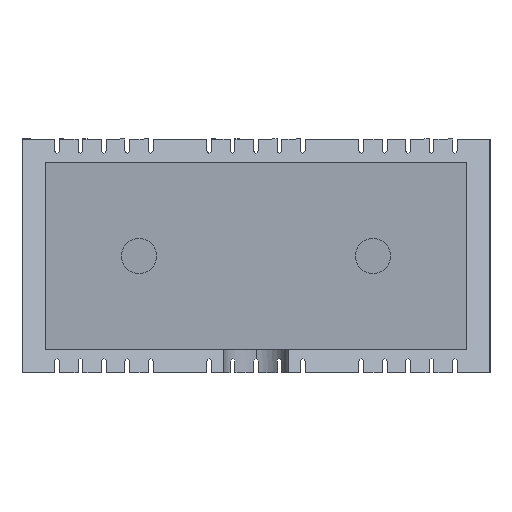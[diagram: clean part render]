
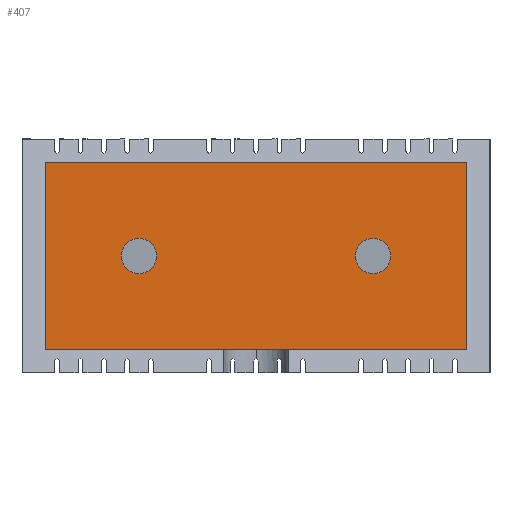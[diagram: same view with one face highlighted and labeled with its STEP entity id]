
A CAD part, left-side view. The second image highlights one B-rep face of the part: STEP entity #407.
In plain terms, the highlighted planar face has unit normal (-1, 0, 0).
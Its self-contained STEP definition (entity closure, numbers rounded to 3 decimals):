
#8 = ORIENTED_EDGE ( 'NONE', *, *, #635, .F. ) ;
#40 = VERTEX_POINT ( 'NONE', #5330 ) ;
#213 = ORIENTED_EDGE ( 'NONE', *, *, #230, .F. ) ;
#222 = FACE_BOUND ( 'NONE', #4904, .T. ) ;
#230 = EDGE_CURVE ( 'NONE', #3330, #3927, #3127, .T. ) ;
#231 = VECTOR ( 'NONE', #5308, 1000. ) ;
#407 = ADVANCED_FACE ( 'NONE', ( #1099, #222, #5340 ), #3620, .F. ) ;
#510 = CIRCLE ( 'NONE', #820, 1.5 ) ;
#635 = EDGE_CURVE ( 'NONE', #3927, #3330, #4822, .T. ) ;
#656 = LINE ( 'NONE', #5252, #231 ) ;
#767 = EDGE_LOOP ( 'NONE', ( #4643, #4102 ) ) ;
#820 = AXIS2_PLACEMENT_3D ( 'NONE', #4565, #2077, #2930 ) ;
#875 = CARTESIAN_POINT ( 'NONE',  ( -52., -10., -1.5 ) ) ;
#922 = VERTEX_POINT ( 'NONE', #4734 ) ;
#1073 = VERTEX_POINT ( 'NONE', #3118 ) ;
#1099 = FACE_OUTER_BOUND ( 'NONE', #2821, .T. ) ;
#1481 = CARTESIAN_POINT ( 'NONE',  ( -52., 18., -8. ) ) ;
#1503 = AXIS2_PLACEMENT_3D ( 'NONE', #1667, #4177, #2046 ) ;
#1520 = EDGE_CURVE ( 'NONE', #2962, #40, #3886, .T. ) ;
#1528 = DIRECTION ( 'NONE',  ( 1., 0., 0. ) ) ;
#1547 = EDGE_CURVE ( 'NONE', #922, #1073, #5420, .T. ) ;
#1556 = EDGE_CURVE ( 'NONE', #40, #2962, #510, .T. ) ;
#1570 = AXIS2_PLACEMENT_3D ( 'NONE', #2674, #1952, #3188 ) ;
#1638 = DIRECTION ( 'NONE',  ( 0., 0., -1. ) ) ;
#1667 = CARTESIAN_POINT ( 'NONE',  ( -52., -10., 0. ) ) ;
#1685 = ORIENTED_EDGE ( 'NONE', *, *, #2200, .T. ) ;
#1687 = LINE ( 'NONE', #2155, #4960 ) ;
#1698 = VECTOR ( 'NONE', #1873, 1000. ) ;
#1858 = VERTEX_POINT ( 'NONE', #5243 ) ;
#1873 = DIRECTION ( 'NONE',  ( 0., -1., 0. ) ) ;
#1916 = CARTESIAN_POINT ( 'NONE',  ( -52., 0., 0. ) ) ;
#1952 = DIRECTION ( 'NONE',  ( -1., 0., 0. ) ) ;
#2046 = DIRECTION ( 'NONE',  ( 0., 0., -1. ) ) ;
#2077 = DIRECTION ( 'NONE',  ( -1., 0., 0. ) ) ;
#2155 = CARTESIAN_POINT ( 'NONE',  ( -52., -18., 0. ) ) ;
#2200 = EDGE_CURVE ( 'NONE', #1858, #922, #656, .T. ) ;
#2436 = AXIS2_PLACEMENT_3D ( 'NONE', #3075, #4770, #4453 ) ;
#2650 = VECTOR ( 'NONE', #1638, 1000. ) ;
#2674 = CARTESIAN_POINT ( 'NONE',  ( -52., 10., 0. ) ) ;
#2821 = EDGE_LOOP ( 'NONE', ( #3220, #5019, #1685, #3400 ) ) ;
#2881 = CARTESIAN_POINT ( 'NONE',  ( -52., 10., 1.5 ) ) ;
#2930 = DIRECTION ( 'NONE',  ( 0., 0., -1. ) ) ;
#2952 = DIRECTION ( 'NONE',  ( 0., 0., -1. ) ) ;
#2962 = VERTEX_POINT ( 'NONE', #875 ) ;
#3067 = AXIS2_PLACEMENT_3D ( 'NONE', #1916, #1528, #5313 ) ;
#3075 = CARTESIAN_POINT ( 'NONE',  ( -52., 10., 0. ) ) ;
#3118 = CARTESIAN_POINT ( 'NONE',  ( -52., 18., -8. ) ) ;
#3127 = CIRCLE ( 'NONE', #1570, 1.5 ) ;
#3188 = DIRECTION ( 'NONE',  ( 0., 0., -1. ) ) ;
#3220 = ORIENTED_EDGE ( 'NONE', *, *, #3922, .T. ) ;
#3330 = VERTEX_POINT ( 'NONE', #2881 ) ;
#3400 = ORIENTED_EDGE ( 'NONE', *, *, #1547, .T. ) ;
#3620 = PLANE ( 'NONE',  #3067 ) ;
#3712 = VERTEX_POINT ( 'NONE', #3864 ) ;
#3864 = CARTESIAN_POINT ( 'NONE',  ( -52., -18., -8. ) ) ;
#3886 = CIRCLE ( 'NONE', #1503, 1.5 ) ;
#3922 = EDGE_CURVE ( 'NONE', #1073, #3712, #5264, .T. ) ;
#3927 = VERTEX_POINT ( 'NONE', #4022 ) ;
#4022 = CARTESIAN_POINT ( 'NONE',  ( -52., 10., -1.5 ) ) ;
#4102 = ORIENTED_EDGE ( 'NONE', *, *, #1556, .F. ) ;
#4140 = EDGE_CURVE ( 'NONE', #1858, #3712, #1687, .T. ) ;
#4177 = DIRECTION ( 'NONE',  ( -1., 0., 0. ) ) ;
#4453 = DIRECTION ( 'NONE',  ( 0., 0., -1. ) ) ;
#4565 = CARTESIAN_POINT ( 'NONE',  ( -52., -10., 0. ) ) ;
#4643 = ORIENTED_EDGE ( 'NONE', *, *, #1520, .F. ) ;
#4734 = CARTESIAN_POINT ( 'NONE',  ( -52., 18., 8. ) ) ;
#4770 = DIRECTION ( 'NONE',  ( -1., 0., 0. ) ) ;
#4822 = CIRCLE ( 'NONE', #2436, 1.5 ) ;
#4904 = EDGE_LOOP ( 'NONE', ( #8, #213 ) ) ;
#4960 = VECTOR ( 'NONE', #2952, 1000. ) ;
#4978 = CARTESIAN_POINT ( 'NONE',  ( -52., 18., 8. ) ) ;
#5019 = ORIENTED_EDGE ( 'NONE', *, *, #4140, .F. ) ;
#5243 = CARTESIAN_POINT ( 'NONE',  ( -52., -18., 8. ) ) ;
#5252 = CARTESIAN_POINT ( 'NONE',  ( -52., 0., 8. ) ) ;
#5264 = LINE ( 'NONE', #1481, #1698 ) ;
#5308 = DIRECTION ( 'NONE',  ( 0., 1., 0. ) ) ;
#5313 = DIRECTION ( 'NONE',  ( 0., 0., -1. ) ) ;
#5330 = CARTESIAN_POINT ( 'NONE',  ( -52., -10., 1.5 ) ) ;
#5340 = FACE_BOUND ( 'NONE', #767, .T. ) ;
#5420 = LINE ( 'NONE', #4978, #2650 ) ;
